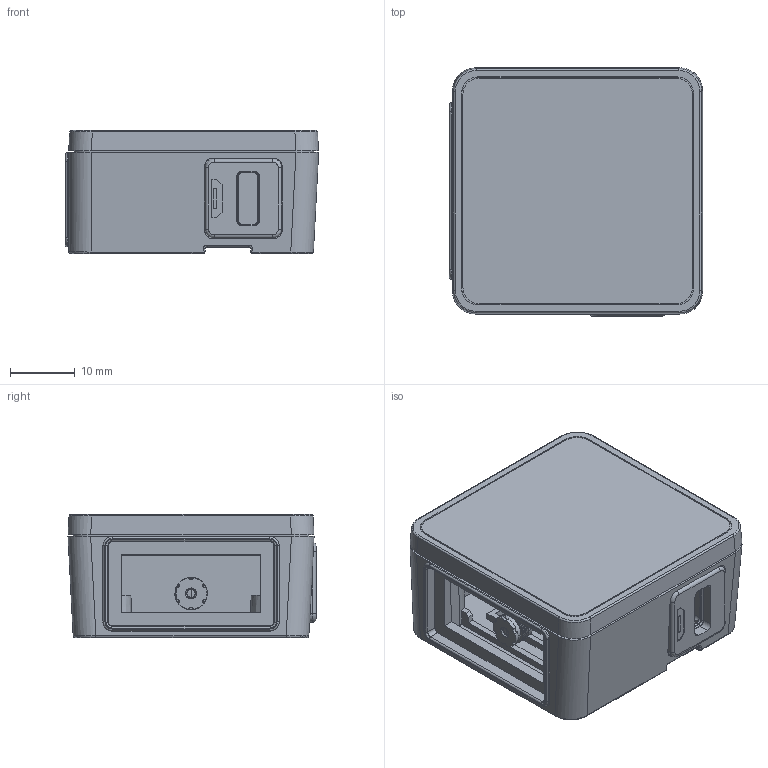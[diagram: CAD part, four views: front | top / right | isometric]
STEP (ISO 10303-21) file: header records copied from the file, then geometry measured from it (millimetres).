
FILE_DESCRIPTION((''),'2;1');
FILE_NAME('Z-5132_MODULE_FOR_TOOLING_ASM','2020-08-06T',('milo.hou'),(''),'CREO PARAMETRIC BY PTC INC, 2014500','CREO PARAMETRIC BY PTC INC, 2014500','');
FILE_SCHEMA(('CONFIG_CONTROL_DESIGN'));
Length unit declared in the file: millimetre
Products named in the file (10): Z-5132-BOTTOM_COVER_37_1_1; 1LS1185C-H_15_1_1; SENSOR_PCBA-1811_ASM_24_ASM_2_A_ASM; Z-5132_ENGINE_ASM_38_ASM_5_ASM__ASM; Z-5132-TOP_COVER_26_2_1; USB_SEAL_10_1_1; TOP_LABLE_8_1_1; Z-5132_MODULE_ASM_6_ASM_1_ASM; Z-5132_MODULE_ASM_ASM_1_ASM; Z-5132_MODULE_FOR_TOOLING_ASM
Assembly tree (9 placements, depth 6):
  Z-5132_MODULE_FOR_TOOLING_ASM
    Z-5132_MODULE_ASM_ASM_1_ASM
      Z-5132_MODULE_ASM_6_ASM_1_ASM
        Z-5132-BOTTOM_COVER_37_1_1
        Z-5132_ENGINE_ASM_38_ASM_5_ASM__ASM
          SENSOR_PCBA-1811_ASM_24_ASM_2_A_ASM
            1LS1185C-H_15_1_1
        Z-5132-TOP_COVER_26_2_1
        USB_SEAL_10_1_1
        TOP_LABLE_8_1_1
Bounding box: 39.1 x 38.3 x 19 mm (x, y, z)
Volume: 10046.6 mm3; surface area: 16786.8 mm2
Topology: 5 solids, 5 shells, 887 faces, 2357 edges, 1512 vertices
Faces by surface type: plane 462, cone 197, cylinder 152, torus 38, bspline 34, revolution 4
Entity records: 33333 total; most frequent: CARTESIAN_POINT 11049, ORIENTED_EDGE 4698, DIRECTION 4548, EDGE_CURVE 2349, AXIS2_PLACEMENT_3D 1555, VERTEX_POINT 1512, VECTOR 1434, LINE 1434
